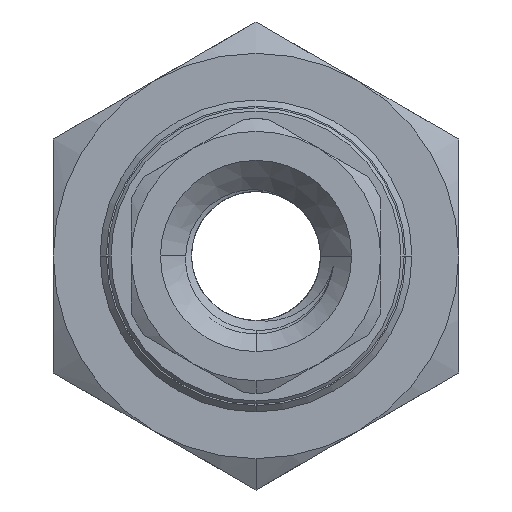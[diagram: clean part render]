
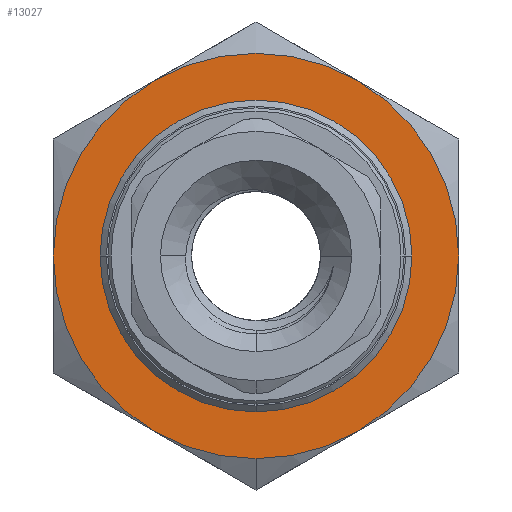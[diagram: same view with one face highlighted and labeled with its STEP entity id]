
A CAD part, front view. The second image highlights one B-rep face of the part: STEP entity #13027.
In plain terms, the highlighted planar face has unit normal (0, -1, 0).
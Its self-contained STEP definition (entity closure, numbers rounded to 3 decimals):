
#52 = ORIENTED_EDGE ( 'NONE', *, *, #2548, .T. ) ;
#304 = DIRECTION ( 'NONE',  ( 0., -1., 0. ) ) ;
#496 = AXIS2_PLACEMENT_3D ( 'NONE', #3555, #11599, #2558 ) ;
#531 = EDGE_LOOP ( 'NONE', ( #10235, #4979, #10461, #3201, #9248, #6113, #2201 ) ) ;
#900 = DIRECTION ( 'NONE',  ( 0., 1., 0. ) ) ;
#930 = AXIS2_PLACEMENT_3D ( 'NONE', #1297, #5330, #9333 ) ;
#932 = ORIENTED_EDGE ( 'NONE', *, *, #5341, .T. ) ;
#1012 = VERTEX_POINT ( 'NONE', #7124 ) ;
#1297 = CARTESIAN_POINT ( 'NONE',  ( 0., 10.5, 0. ) ) ;
#1309 = CARTESIAN_POINT ( 'NONE',  ( 3.25, 10.5, 5.629 ) ) ;
#1591 = VERTEX_POINT ( 'NONE', #1309 ) ;
#1851 = VERTEX_POINT ( 'NONE', #10355 ) ;
#1933 = EDGE_CURVE ( 'NONE', #1935, #1591, #2814, .T. ) ;
#1935 = VERTEX_POINT ( 'NONE', #12729 ) ;
#2201 = ORIENTED_EDGE ( 'NONE', *, *, #4969, .T. ) ;
#2434 = DIRECTION ( 'NONE',  ( -0.5, 0., -0.866 ) ) ;
#2438 = ORIENTED_EDGE ( 'NONE', *, *, #3356, .T. ) ;
#2446 = DIRECTION ( 'NONE',  ( -1., 0., 0. ) ) ;
#2480 = AXIS2_PLACEMENT_3D ( 'NONE', #10005, #900, #5019 ) ;
#2548 = EDGE_CURVE ( 'NONE', #8467, #9864, #4208, .T. ) ;
#2558 = DIRECTION ( 'NONE',  ( 0., 0., 1. ) ) ;
#2642 = AXIS2_PLACEMENT_3D ( 'NONE', #4360, #304, #2434 ) ;
#2814 = CIRCLE ( 'NONE', #5988, 6.5 ) ;
#2835 = DIRECTION ( 'NONE',  ( 0., -1., 0. ) ) ;
#2897 = CARTESIAN_POINT ( 'NONE',  ( 0.396, 10.5, -3.98 ) ) ;
#2903 = CARTESIAN_POINT ( 'NONE',  ( 0., 10.5, -6.5 ) ) ;
#2946 = DIRECTION ( 'NONE',  ( 0., -1., 0. ) ) ;
#3011 = DIRECTION ( 'NONE',  ( 0.5, 0., -0.866 ) ) ;
#3060 = VERTEX_POINT ( 'NONE', #3725 ) ;
#3159 = CARTESIAN_POINT ( 'NONE',  ( 0.396, 10.5, -3.98 ) ) ;
#3201 = ORIENTED_EDGE ( 'NONE', *, *, #8337, .T. ) ;
#3285 = AXIS2_PLACEMENT_3D ( 'NONE', #7142, #6032, #10031 ) ;
#3356 = EDGE_CURVE ( 'NONE', #3060, #8467, #11050, .T. ) ;
#3361 = CARTESIAN_POINT ( 'NONE',  ( 1.122, 10.5, -3.796 ) ) ;
#3450 = VERTEX_POINT ( 'NONE', #2903 ) ;
#3555 = CARTESIAN_POINT ( 'NONE',  ( 0., 10.5, 0. ) ) ;
#3625 = CARTESIAN_POINT ( 'NONE',  ( -0.104, 10.5, -3.979 ) ) ;
#3725 = CARTESIAN_POINT ( 'NONE',  ( 0., 10.5, 3.959 ) ) ;
#3835 = B_SPLINE_CURVE_WITH_KNOTS ( 'NONE', 3,
 ( #2897, #12719, #3625, #10939 ),
 .UNSPECIFIED., .F., .F.,
 ( 4, 4 ),
 ( 0., 1. ),
 .UNSPECIFIED. ) ;
#3989 = EDGE_CURVE ( 'NONE', #1012, #1851, #10199, .T. ) ;
#4208 = B_SPLINE_CURVE_WITH_KNOTS ( 'NONE', 3,
 ( #3361, #10211, #5335, #9209 ),
 .UNSPECIFIED., .F., .F.,
 ( 4, 4 ),
 ( 0., 1. ),
 .UNSPECIFIED. ) ;
#4360 = CARTESIAN_POINT ( 'NONE',  ( 0., 10.5, 0. ) ) ;
#4440 = ORIENTED_EDGE ( 'NONE', *, *, #9138, .T. ) ;
#4969 = EDGE_CURVE ( 'NONE', #1591, #1012, #6222, .T. ) ;
#4971 = CARTESIAN_POINT ( 'NONE',  ( 1.122, 10.5, -3.796 ) ) ;
#4979 = ORIENTED_EDGE ( 'NONE', *, *, #12769, .T. ) ;
#5010 = AXIS2_PLACEMENT_3D ( 'NONE', #5541, #11610, #2446 ) ;
#5019 = DIRECTION ( 'NONE',  ( 1., 0., 0. ) ) ;
#5330 = DIRECTION ( 'NONE',  ( 0., -1., 0. ) ) ;
#5335 = CARTESIAN_POINT ( 'NONE',  ( 0.644, 10.5, -3.942 ) ) ;
#5341 = EDGE_CURVE ( 'NONE', #9864, #10542, #3835, .T. ) ;
#5541 = CARTESIAN_POINT ( 'NONE',  ( 0., 10.5, 0. ) ) ;
#5559 = DIRECTION ( 'NONE',  ( -0.5, 0., -0.866 ) ) ;
#5755 = CARTESIAN_POINT ( 'NONE',  ( 0., 10.5, 0. ) ) ;
#5988 = AXIS2_PLACEMENT_3D ( 'NONE', #11877, #2835, #6799 ) ;
#6032 = DIRECTION ( 'NONE',  ( 0., 1., 0. ) ) ;
#6113 = ORIENTED_EDGE ( 'NONE', *, *, #1933, .T. ) ;
#6180 = DIRECTION ( 'NONE',  ( 0.5, 0., 0.866 ) ) ;
#6222 = CIRCLE ( 'NONE', #12329, 6.5 ) ;
#6425 = AXIS2_PLACEMENT_3D ( 'NONE', #5755, #9758, #5559 ) ;
#6721 = EDGE_CURVE ( 'NONE', #10265, #1935, #10188, .T. ) ;
#6799 = DIRECTION ( 'NONE',  ( 1., 0., 0. ) ) ;
#6898 = CIRCLE ( 'NONE', #5010, 6.5 ) ;
#7039 = DIRECTION ( 'NONE',  ( 0., -1., 0. ) ) ;
#7053 = FACE_OUTER_BOUND ( 'NONE', #531, .T. ) ;
#7124 = CARTESIAN_POINT ( 'NONE',  ( -3.25, 10.5, 5.629 ) ) ;
#7142 = CARTESIAN_POINT ( 'NONE',  ( 0., 10.5, 0. ) ) ;
#7165 = CARTESIAN_POINT ( 'NONE',  ( 0., 10.5, 0. ) ) ;
#7663 = CARTESIAN_POINT ( 'NONE',  ( -3.25, 10.5, -5.629 ) ) ;
#7944 = CARTESIAN_POINT ( 'NONE',  ( 0., 10.5, 0. ) ) ;
#8094 = CIRCLE ( 'NONE', #6425, 6.5 ) ;
#8337 = EDGE_CURVE ( 'NONE', #3450, #10265, #8094, .T. ) ;
#8357 = VERTEX_POINT ( 'NONE', #7663 ) ;
#8467 = VERTEX_POINT ( 'NONE', #4971 ) ;
#8770 = EDGE_LOOP ( 'NONE', ( #932, #4440, #2438, #52 ) ) ;
#9122 = CARTESIAN_POINT ( 'NONE',  ( 3.25, 10.5, -5.629 ) ) ;
#9138 = EDGE_CURVE ( 'NONE', #10542, #3060, #10426, .T. ) ;
#9209 = CARTESIAN_POINT ( 'NONE',  ( 0.396, 10.5, -3.98 ) ) ;
#9248 = ORIENTED_EDGE ( 'NONE', *, *, #6721, .T. ) ;
#9333 = DIRECTION ( 'NONE',  ( -0.5, 0., 0.866 ) ) ;
#9435 = EDGE_CURVE ( 'NONE', #8357, #3450, #10219, .T. ) ;
#9551 = AXIS2_PLACEMENT_3D ( 'NONE', #7944, #2946, #3011 ) ;
#9758 = DIRECTION ( 'NONE',  ( 0., -1., 0. ) ) ;
#9864 = VERTEX_POINT ( 'NONE', #3159 ) ;
#9933 = PLANE ( 'NONE',  #2480 ) ;
#10005 = CARTESIAN_POINT ( 'NONE',  ( 0., 10.5, 0. ) ) ;
#10031 = DIRECTION ( 'NONE',  ( -0.089, 0., -0.996 ) ) ;
#10041 = CARTESIAN_POINT ( 'NONE',  ( -0.352, 10.5, -3.943 ) ) ;
#10188 = CIRCLE ( 'NONE', #9551, 6.5 ) ;
#10199 = CIRCLE ( 'NONE', #930, 6.5 ) ;
#10206 = FACE_BOUND ( 'NONE', #8770, .T. ) ;
#10211 = CARTESIAN_POINT ( 'NONE',  ( 0.886, 10.5, -3.88 ) ) ;
#10219 = CIRCLE ( 'NONE', #2642, 6.5 ) ;
#10235 = ORIENTED_EDGE ( 'NONE', *, *, #3989, .T. ) ;
#10265 = VERTEX_POINT ( 'NONE', #9122 ) ;
#10355 = CARTESIAN_POINT ( 'NONE',  ( -6.5, 10.5, 0. ) ) ;
#10426 = CIRCLE ( 'NONE', #3285, 3.958 ) ;
#10461 = ORIENTED_EDGE ( 'NONE', *, *, #9435, .T. ) ;
#10542 = VERTEX_POINT ( 'NONE', #10041 ) ;
#10939 = CARTESIAN_POINT ( 'NONE',  ( -0.352, 10.5, -3.943 ) ) ;
#11050 = CIRCLE ( 'NONE', #496, 3.959 ) ;
#11599 = DIRECTION ( 'NONE',  ( 0., 1., 0. ) ) ;
#11610 = DIRECTION ( 'NONE',  ( 0., -1., 0. ) ) ;
#11877 = CARTESIAN_POINT ( 'NONE',  ( 0., 10.5, 0. ) ) ;
#12329 = AXIS2_PLACEMENT_3D ( 'NONE', #7165, #7039, #6180 ) ;
#12719 = CARTESIAN_POINT ( 'NONE',  ( 0.145, 10.5, -3.991 ) ) ;
#12729 = CARTESIAN_POINT ( 'NONE',  ( 6.5, 10.5, 0. ) ) ;
#12769 = EDGE_CURVE ( 'NONE', #1851, #8357, #6898, .T. ) ;
#13027 = ADVANCED_FACE ( 'NONE', ( #10206, #7053 ), #9933, .F. ) ;
